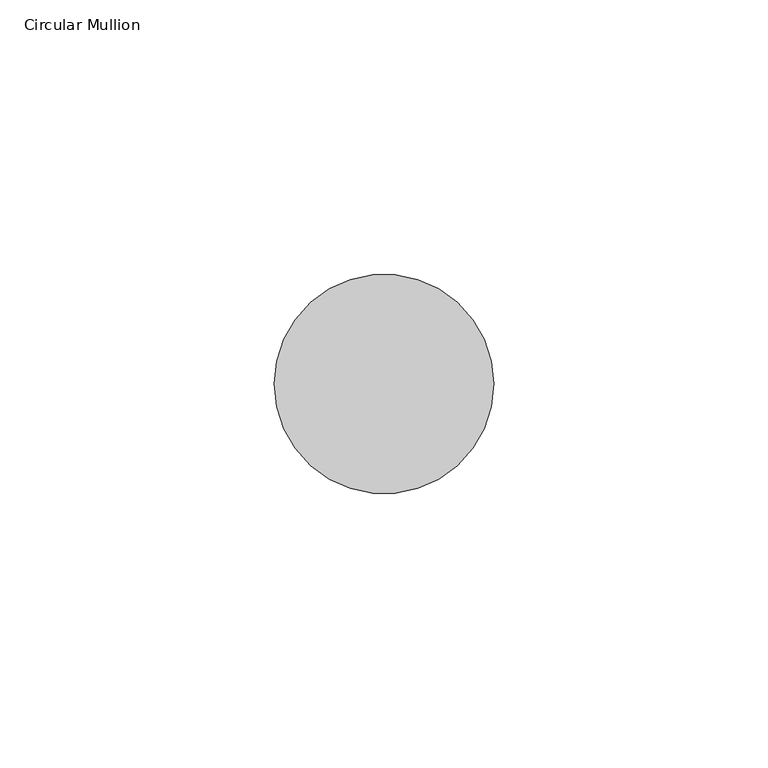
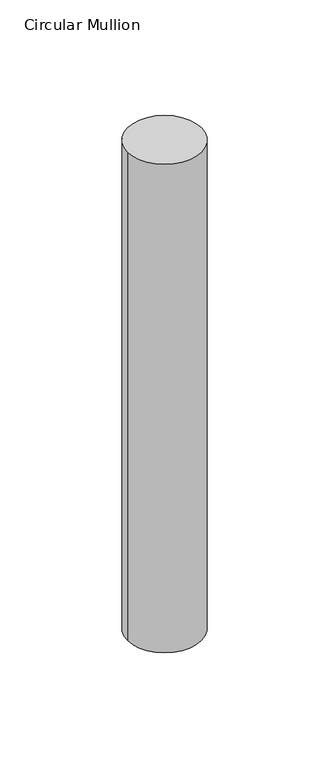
"""IFC4 building model written with IfcOpenShell, lengths in millimetres: member geometry, Circular Mullion : GRADIL 40mm."""

import ifcopenshell
import ifcopenshell.guid

model = None  # the IFC model being written
_history = None  # IfcOwnerHistory: only IFC2X3 demands one
_inside = {}  # id of a spatial element -> (the spatial element, [elements in it])
_under = {}  # id of a project, library or spatial element -> (it, [spatial elements below it])
_declared = {}  # id of a project -> (the project, [libraries it declares])
_typed = {}  # id of a type object -> (the type object, [elements of that type])
_made_of = {}  # id of a material, layer set ... -> (it, [elements and type objects made of it])


def new_model(schema):
    """Start an empty IFC model of exactly this schema.

    Asked for "IFC4X3", IfcOpenShell would pick the latest addendum, in which some entities
    have other attributes; the version numbers below select the first issue.
    IFC2X3 requires an IfcOwnerHistory on every rooted entity: one is made here for all.
    """
    global model, _history
    if schema == "IFC4X3":
        model = ifcopenshell.file(schema_version=(4, 3, 0, 0))
    else:
        model = ifcopenshell.file(schema=schema)
    _inside.clear()
    _under.clear()
    _declared.clear()
    _typed.clear()
    _made_of.clear()
    _history = None
    if model.schema == "IFC2X3":
        org = make("IfcOrganization", Name="unknown")
        user = make(
            "IfcPersonAndOrganization",
            ThePerson=make("IfcPerson", FamilyName="unknown"),
            TheOrganization=org,
        )
        app = make(
            "IfcApplication",
            ApplicationDeveloper=org,
            Version="unknown",
            ApplicationFullName="unknown",
            ApplicationIdentifier="unknown",
        )
        _history = make(
            "IfcOwnerHistory",
            OwningUser=user,
            OwningApplication=app,
            ChangeAction="ADDED",
            CreationDate=0,
        )
    return model


def make(cls, **values):
    """One entity of the class cls with the attributes given. An attribute that is None is left unset."""
    return model.create_entity(
        cls, **{name: value for name, value in values.items() if value is not None}
    )


def rooted(cls, **values):
    """An entity with a GlobalId (a new one), such as an element, a storey or a relation."""
    return make(cls, GlobalId=ifcopenshell.guid.new(), OwnerHistory=_history, **values)


def si_unit(unit_type, name, prefix=None):
    """IfcSIUnit, for example si_unit("LENGTHUNIT", "METRE", prefix="MILLI")."""
    return make("IfcSIUnit", UnitType=unit_type, Prefix=prefix, Name=name)


def assignment(units):
    """IfcUnitAssignment: the units of a project."""
    return None if units is None else make("IfcUnitAssignment", Units=units)


def point(xyz):
    """IfcCartesianPoint."""
    return None if xyz is None else make("IfcCartesianPoint", Coordinates=xyz)


def direction(xyz):
    """IfcDirection."""
    return None if xyz is None else make("IfcDirection", DirectionRatios=xyz)


def frame(location, z_axis=None, x_axis=None):
    """IfcAxis2Placement3D, a coordinate frame: its origin and axes. An axis left out is left unset."""
    return make(
        "IfcAxis2Placement3D",
        Location=point(location),
        Axis=direction(z_axis),
        RefDirection=direction(x_axis),
    )


def frame_2d(location, x_axis=None):
    """IfcAxis2Placement2D, a coordinate frame in the plane: its origin and x axis."""
    return make(
        "IfcAxis2Placement2D", Location=point(location), RefDirection=direction(x_axis)
    )


def origin():
    """The frame at (0, 0, 0) with its axes left unset."""
    return frame((0.0, 0.0, 0.0))


def origin_2d():
    """The frame at (0, 0) in the plane with its x axis left unset."""
    return frame_2d((0.0, 0.0))


def place(relative_to, where):
    """IfcLocalPlacement: puts the frame where relative to a parent placement (None: the world)."""
    return make(
        "IfcLocalPlacement", PlacementRelTo=relative_to, RelativePlacement=where
    )


def context(
    kind, dimensions, precision=None, world=None, true_north=None, identifier=None
):
    """IfcGeometricRepresentationContext, for example the 3D "Model" context."""
    return make(
        "IfcGeometricRepresentationContext",
        ContextIdentifier=identifier,
        ContextType=kind,
        CoordinateSpaceDimension=dimensions,
        Precision=precision,
        WorldCoordinateSystem=world,
        TrueNorth=true_north,
    )


def project(units=None, contexts=None):
    """IfcProject with its units and contexts."""
    return rooted(
        "IfcProject",
        Name="project",
        RepresentationContexts=contexts,
        UnitsInContext=assignment(units),
    )


def spatial(cls, under=None, at=None, **own):
    """A site, building, storey or space (cls), placed at a placement, below another one or the project."""
    s = rooted(cls, ObjectPlacement=at, **own)
    if under is not None:
        _under.setdefault(under.id(), (under, []))[1].append(s)
    return s


def circle_curve(where, radius):
    """IfcCircle in the frame where."""
    return make("IfcCircle", Position=where, Radius=radius)


def trimmed(basis, trim1, trim2, sense, master):
    """IfcTrimmedCurve: the piece of a basis curve between two trims."""
    return make(
        "IfcTrimmedCurve",
        BasisCurve=basis,
        Trim1=trim1,
        Trim2=trim2,
        SenseAgreement=sense,
        MasterRepresentation=master,
    )


def segment(curve, same_sense, transition):
    """IfcCompositeCurveSegment."""
    return make(
        "IfcCompositeCurveSegment",
        Transition=transition,
        SameSense=same_sense,
        ParentCurve=curve,
    )


def composite_curve(segments, self_intersect=None):
    """IfcCompositeCurve: segments joined end to end."""
    return make("IfcCompositeCurve", Segments=segments, SelfIntersect=self_intersect)


def outline(outer, holes=None, kind="AREA"):
    """IfcArbitraryClosedProfileDef: a profile drawn as a closed curve; with holes, ...WithVoids."""
    if holes is None:
        return make("IfcArbitraryClosedProfileDef", ProfileType=kind, OuterCurve=outer)
    return make(
        "IfcArbitraryProfileDefWithVoids",
        ProfileType=kind,
        OuterCurve=outer,
        InnerCurves=holes,
    )


def extrude(swept, where, along, depth):
    """IfcExtrudedAreaSolid: the profile swept, set in the frame where, extruded along a direction by depth."""
    return make(
        "IfcExtrudedAreaSolid",
        SweptArea=swept,
        Position=where,
        ExtrudedDirection=direction(along),
        Depth=depth,
    )


def shape(context_of_items, identifier, shape_type, items):
    """IfcShapeRepresentation: the items that make up one representation, for example the "Body"."""
    return make(
        "IfcShapeRepresentation",
        ContextOfItems=context_of_items,
        RepresentationIdentifier=identifier,
        RepresentationType=shape_type,
        Items=items,
    )


def source(mapping_origin, context_of_items, identifier, shape_type, items):
    """IfcRepresentationMap: a shape defined once, which mapped items show again and again."""
    return make(
        "IfcRepresentationMap",
        MappingOrigin=mapping_origin,
        MappedRepresentation=shape(context_of_items, identifier, shape_type, items),
    )


def transform(
    local_origin,
    x_axis=None,
    y_axis=None,
    z_axis=None,
    scale=None,
    scale2=None,
    scale3=None,
    uniform=True,
):
    """IfcCartesianTransformationOperator3D, or its non-uniform kind. x_axis, y_axis, z_axis: its Axis1, 2, 3."""
    if uniform:
        return make(
            "IfcCartesianTransformationOperator3D",
            Axis1=direction(x_axis),
            Axis2=direction(y_axis),
            LocalOrigin=point(local_origin),
            Scale=scale,
            Axis3=direction(z_axis),
        )
    return make(
        "IfcCartesianTransformationOperator3DnonUniform",
        Axis1=direction(x_axis),
        Axis2=direction(y_axis),
        LocalOrigin=point(local_origin),
        Scale=scale,
        Axis3=direction(z_axis),
        Scale2=scale2,
        Scale3=scale3,
    )


def mapped(mapping_source, mapping_target):
    """IfcMappedItem: shows the shape of a source again, moved by a transform."""
    return make(
        "IfcMappedItem", MappingSource=mapping_source, MappingTarget=mapping_target
    )


def made_of(thing, what):
    """Note that an element or type object is made of a material, layer set ...; save() writes the relation."""
    if what is not None:
        _made_of.setdefault(what.id(), (what, []))[1].append(thing)
    return thing


def element(
    cls,
    number,
    at=None,
    inside=None,
    cuts=None,
    type_object=None,
    material=None,
    context=None,
    identifier="Body",
    shape_type=None,
    held_by="IfcProductDefinitionShape",
    body=None,
    shapes=None,
    **own,
):
    """One element of the class cls, such as IfcWall. Its Tag is "e" and its number.

    at: its placement. inside: the storey or other place that contains it. cuts: it is an
    opening in that element (IfcRelVoidsElement). A single representation is given by context,
    identifier, shape_type and body (its items); several are given by shapes. held_by: the class
    of the entity that holds the representations. save() writes the other relations.
    """
    e = rooted(cls, Tag="e%d" % number, ObjectPlacement=at, **own)
    if body is not None:
        shapes = [shape(context, identifier, shape_type, body)]
    if shapes is not None:
        e.Representation = make(held_by, Representations=shapes)
    if inside is not None:
        _inside.setdefault(inside.id(), (inside, []))[1].append(e)
    if cuts is not None:
        rooted(
            "IfcRelVoidsElement", RelatingBuildingElement=cuts, RelatedOpeningElement=e
        )
    if type_object is not None:
        _typed.setdefault(type_object.id(), (type_object, []))[1].append(e)
    return made_of(e, material)


def aggregate(whole, parts):
    """IfcRelAggregates: a whole, such as a stair, and the parts it consists of."""
    return rooted("IfcRelAggregates", RelatingObject=whole, RelatedObjects=parts)


def save(model, path):
    """Write the relations noted so far, then the file.

    IfcRelAggregates (storeys below a building ...), IfcRelContainedInSpatialStructure (elements
    in a storey), IfcRelDefinesByType, IfcRelAssociatesMaterial and IfcRelDeclares: one each for
    every whole, place, type object, material and project.
    """
    for whole, parts in _under.values():
        aggregate(whole, parts)
    for where, things in _inside.values():
        rooted(
            "IfcRelContainedInSpatialStructure",
            RelatedElements=things,
            RelatingStructure=where,
        )
    for kind, things in _typed.values():
        rooted("IfcRelDefinesByType", RelatedObjects=things, RelatingType=kind)
    for what, things in _made_of.values():
        rooted("IfcRelAssociatesMaterial", RelatedObjects=things, RelatingMaterial=what)
    for by, libraries in _declared.values():
        rooted("IfcRelDeclares", RelatingContext=by, RelatedDefinitions=libraries)
    model.write(path)


def circular_mullion_506f78ad(model_context):
    return source(origin(), model_context, "Body", "SweptSolid", [
        extrude(outline(composite_curve([segment(trimmed(circle_curve(origin_2d(), 20.0), [point((20.0, 0.0))], [point((-20.0, 0.0))], False, "CARTESIAN"), True, "CONTINUOUS"), segment(trimmed(circle_curve(origin_2d(), 20.0), [point((-20.0, 0.0))], [point((20.0, 0.0))], False, "CARTESIAN"), True, "CONTINUOUS")], self_intersect=False)), frame((0.0, 0.0, -279.9377689), z_axis=(0.0, 0.0, 1.0), x_axis=(1.0, 0.0, 0.0)), (0.0, 0.0, 1.0), 279.9377689),
    ])


if __name__ == "__main__":
    model = new_model("IFC4")
    model_context = context("Model", 3, world=origin())
    ifc_project = project(units=[si_unit("LENGTHUNIT", "METRE", prefix="MILLI")], contexts=[model_context])
    site = spatial("IfcSite", under=ifc_project)
    building = spatial("IfcBuilding", under=site)
    placement = place(None, origin())
    circular_mullion_shape = circular_mullion_506f78ad(model_context)
    element("IfcMember", 1, ObjectType="Circular Mullion : GRADIL 40mm", at=placement, inside=building, context=model_context, shape_type="MappedRepresentation", body=[
        mapped(circular_mullion_shape, transform((0.0, 0.0, 0.0), x_axis=(1.0, 0.0, 0.0), y_axis=(0.0, 1.0, 0.0), z_axis=(0.0, 0.0, 1.0))),
    ])
    save(model, "model.ifc")
